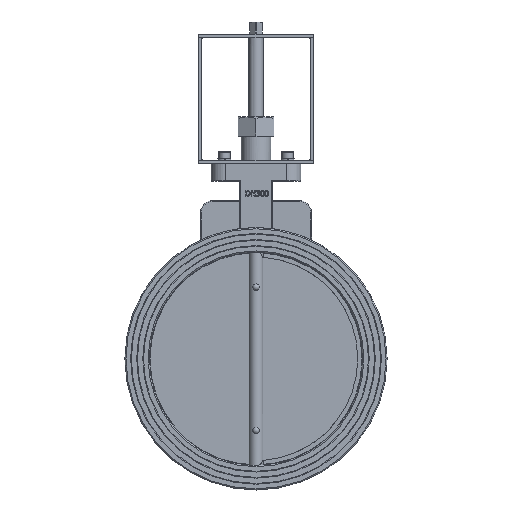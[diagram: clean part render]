
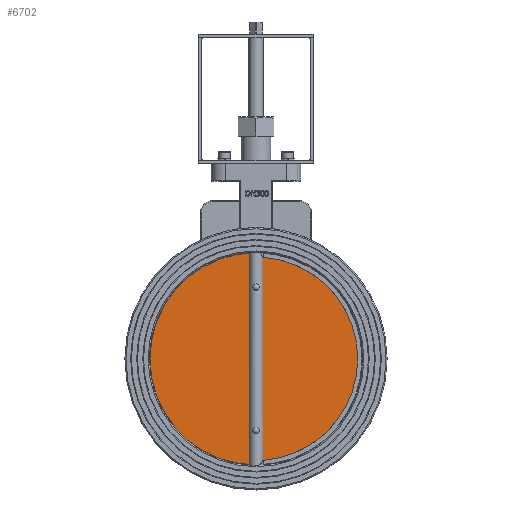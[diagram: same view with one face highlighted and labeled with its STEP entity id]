
A CAD part, top view. The second image highlights one B-rep face of the part: STEP entity #6702.
In plain terms, the highlighted planar face has unit normal (0, 0, 1) as drawn and (0, -1, 0) by its records, which use the part's own axes.
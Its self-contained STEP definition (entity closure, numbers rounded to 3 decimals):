
#1593=PLANE('',#7287);
#1761=FACE_BOUND('',#2534,.T.);
#1762=FACE_BOUND('',#2535,.T.);
#2036=FACE_OUTER_BOUND('',#2533,.T.);
#2533=EDGE_LOOP('',(#5536));
#2534=EDGE_LOOP('',(#5537));
#2535=EDGE_LOOP('',(#5538));
#2921=CIRCLE('',#7279,2.5);
#2923=CIRCLE('',#7282,2.5);
#2925=CIRCLE('',#7285,148.);
#3366=VERTEX_POINT('',#10577);
#3368=VERTEX_POINT('',#10582);
#3370=VERTEX_POINT('',#10587);
#4141=EDGE_CURVE('',#3366,#3366,#2921,.T.);
#4143=EDGE_CURVE('',#3368,#3368,#2923,.T.);
#4145=EDGE_CURVE('',#3370,#3370,#2925,.T.);
#5536=ORIENTED_EDGE('',*,*,#4145,.F.);
#5537=ORIENTED_EDGE('',*,*,#4141,.T.);
#5538=ORIENTED_EDGE('',*,*,#4143,.T.);
#6702=ADVANCED_FACE('',(#2036,#1761,#1762),#1593,.F.);
#7279=AXIS2_PLACEMENT_3D('',#10578,#8581,#8582);
#7282=AXIS2_PLACEMENT_3D('',#10583,#8587,#8588);
#7285=AXIS2_PLACEMENT_3D('',#10588,#8593,#8594);
#7287=AXIS2_PLACEMENT_3D('',#10590,#8597,#8598);
#8581=DIRECTION('center_axis',(0.,1.,0.));
#8582=DIRECTION('ref_axis',(1.,0.,0.));
#8587=DIRECTION('center_axis',(0.,1.,0.));
#8588=DIRECTION('ref_axis',(1.,0.,0.));
#8593=DIRECTION('center_axis',(0.,1.,0.));
#8594=DIRECTION('ref_axis',(-1.,0.,0.));
#8597=DIRECTION('center_axis',(0.,1.,0.));
#8598=DIRECTION('ref_axis',(0.,0.,1.));
#10577=CARTESIAN_POINT('',(-2.5,0.,100.));
#10578=CARTESIAN_POINT('Origin',(0.,0.,100.));
#10582=CARTESIAN_POINT('',(-2.5,0.,-100.));
#10583=CARTESIAN_POINT('Origin',(0.,0.,-100.));
#10587=CARTESIAN_POINT('',(-148.,0.,0.));
#10588=CARTESIAN_POINT('Origin',(0.,0.,0.));
#10590=CARTESIAN_POINT('Origin',(0.,0.,0.));
